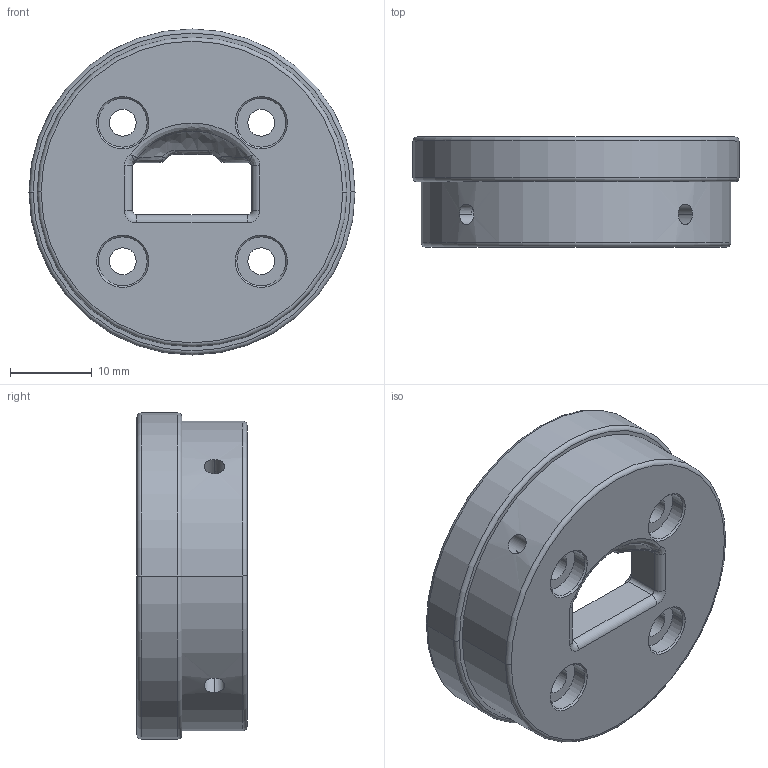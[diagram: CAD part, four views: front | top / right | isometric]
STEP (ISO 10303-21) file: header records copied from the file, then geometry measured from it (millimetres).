
FILE_DESCRIPTION (( 'STEP AP203' ), '1' );
FILE_NAME ('BrainCo灵巧手手腕链接_二代手腕.STEP', '2025-04-16T10:38:34', ( '' ), ( '' ), 'SwSTEP 2.0', 'SolidWorks 2024', '' );
FILE_SCHEMA (( 'CONFIG_CONTROL_DESIGN' ));
Length unit declared in the file: millimetre
Products named in the file (1): BrainCo灵巧手手腕链接_二代手腕
Bounding box: 40 x 13.5 x 40 mm (x, y, z)
Volume: 5599 mm3; surface area: 6144 mm2
Topology: 1 solids, 1 shells, 207 faces, 547 edges, 353 vertices
Faces by surface type: cylinder 104, plane 67, cone 12, bspline 12, torus 8, sphere 4
Entity records: 8091 total; most frequent: CARTESIAN_POINT 2744, DIRECTION 1161, ORIENTED_EDGE 1094, EDGE_CURVE 547, AXIS2_PLACEMENT_3D 455, VERTEX_POINT 353, CIRCLE 259, VECTOR 251
